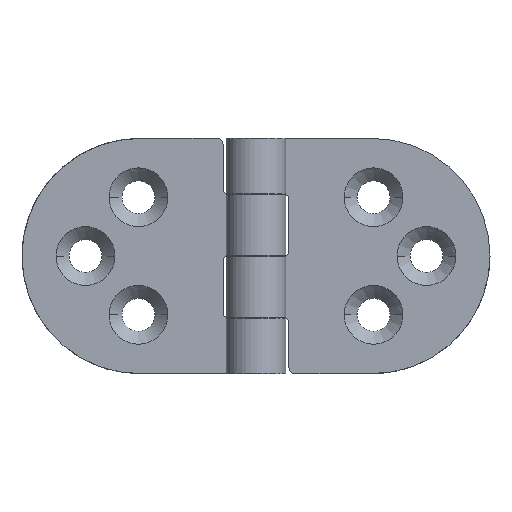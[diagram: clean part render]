
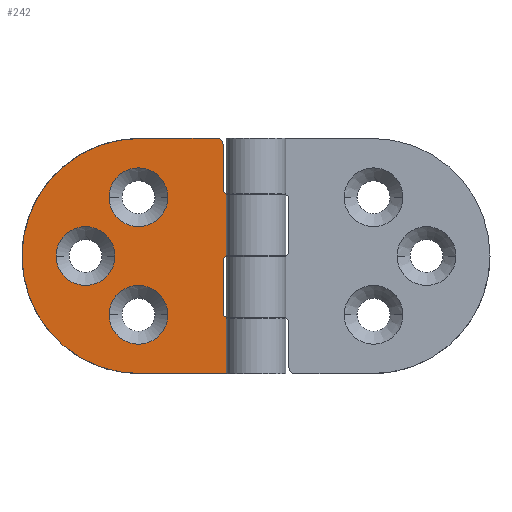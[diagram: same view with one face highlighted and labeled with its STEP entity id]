
A CAD part, top view. The second image highlights one B-rep face of the part: STEP entity #242.
In plain terms, the highlighted planar face has unit normal (0, 0, 1).
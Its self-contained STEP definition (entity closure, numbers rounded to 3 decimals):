
#11=FACE_BOUND('',#383,.T.);
#12=FACE_BOUND('',#384,.T.);
#13=FACE_BOUND('',#385,.T.);
#39=(
BOUNDED_CURVE()
B_SPLINE_CURVE(2,(#3016,#3017,#3018,#3019),.UNSPECIFIED.,.F.,.F.)
B_SPLINE_CURVE_WITH_KNOTS((3,1,3),(94.248,94.469,125.664),
 .UNSPECIFIED.)
CURVE()
GEOMETRIC_REPRESENTATION_ITEM()
RATIONAL_B_SPLINE_CURVE((1.,0.998,0.709,1.))
REPRESENTATION_ITEM('')
);
#82=PLANE('',#1997);
#242=ADVANCED_FACE('',(#312,#11,#12,#13),#82,.T.);
#312=FACE_OUTER_BOUND('',#382,.T.);
#382=EDGE_LOOP('',(#556,#557,#558,#559,#560,#561,#562,#563,#564,#565,#566,
#567,#568,#569,#570));
#383=EDGE_LOOP('',(#571));
#384=EDGE_LOOP('',(#572));
#385=EDGE_LOOP('',(#573));
#556=ORIENTED_EDGE('',*,*,#890,.T.);
#557=ORIENTED_EDGE('',*,*,#891,.T.);
#558=ORIENTED_EDGE('',*,*,#892,.T.);
#559=ORIENTED_EDGE('',*,*,#893,.T.);
#560=ORIENTED_EDGE('',*,*,#894,.T.);
#561=ORIENTED_EDGE('',*,*,#895,.T.);
#562=ORIENTED_EDGE('',*,*,#896,.T.);
#563=ORIENTED_EDGE('',*,*,#897,.T.);
#564=ORIENTED_EDGE('',*,*,#898,.T.);
#565=ORIENTED_EDGE('',*,*,#899,.T.);
#566=ORIENTED_EDGE('',*,*,#900,.T.);
#567=ORIENTED_EDGE('',*,*,#901,.T.);
#568=ORIENTED_EDGE('',*,*,#902,.T.);
#569=ORIENTED_EDGE('',*,*,#903,.T.);
#570=ORIENTED_EDGE('',*,*,#904,.T.);
#571=ORIENTED_EDGE('',*,*,#905,.T.);
#572=ORIENTED_EDGE('',*,*,#906,.T.);
#573=ORIENTED_EDGE('',*,*,#907,.T.);
#890=EDGE_CURVE('',#1608,#1609,#1144,.T.);
#891=EDGE_CURVE('',#1609,#1610,#39,.T.);
#892=EDGE_CURVE('',#1610,#1611,#1292,.T.);
#893=EDGE_CURVE('',#1611,#1612,#1145,.T.);
#894=EDGE_CURVE('',#1612,#1613,#1146,.T.);
#895=EDGE_CURVE('',#1613,#1614,#1147,.T.);
#896=EDGE_CURVE('',#1614,#1615,#1293,.T.);
#897=EDGE_CURVE('',#1615,#1616,#1148,.T.);
#898=EDGE_CURVE('',#1616,#1617,#1294,.T.);
#899=EDGE_CURVE('',#1617,#1618,#1149,.T.);
#900=EDGE_CURVE('',#1618,#1619,#1150,.T.);
#901=EDGE_CURVE('',#1619,#1620,#1151,.T.);
#902=EDGE_CURVE('',#1620,#1621,#1295,.T.);
#903=EDGE_CURVE('',#1621,#1622,#1152,.T.);
#904=EDGE_CURVE('',#1622,#1608,#1296,.T.);
#905=EDGE_CURVE('',#1623,#1623,#1425,.T.);
#906=EDGE_CURVE('',#1624,#1624,#1426,.T.);
#907=EDGE_CURVE('',#1625,#1625,#1427,.T.);
#1144=B_SPLINE_CURVE_WITH_KNOTS('',1,(#3014,#3015),.UNSPECIFIED.,.F.,.F.,
(2,2),(-102.026,-88.826),.UNSPECIFIED.);
#1145=B_SPLINE_CURVE_WITH_KNOTS('',1,(#3023,#3024),.UNSPECIFIED.,.F.,.F.,
(2,2),(88.826,108.626),.UNSPECIFIED.);
#1146=B_SPLINE_CURVE_WITH_KNOTS('',1,(#3025,#3026),.UNSPECIFIED.,.F.,.F.,
(2,2),(0.,9.4),.UNSPECIFIED.);
#1147=B_SPLINE_CURVE_WITH_KNOTS('',1,(#3027,#3028),.UNSPECIFIED.,.F.,.F.,
(2,2),(-108.626,-104.026),.UNSPECIFIED.);
#1148=B_SPLINE_CURVE_WITH_KNOTS('',1,(#3032,#3033),.UNSPECIFIED.,.F.,.F.,
(2,2),(-9.7,-1.),.UNSPECIFIED.);
#1149=B_SPLINE_CURVE_WITH_KNOTS('',1,(#3037,#3038),.UNSPECIFIED.,.F.,.F.,
(2,2),(1.,5.6),.UNSPECIFIED.);
#1150=B_SPLINE_CURVE_WITH_KNOTS('',1,(#3039,#3040),.UNSPECIFIED.,.F.,.F.,
(2,2),(20.1,30.4),.UNSPECIFIED.);
#1151=B_SPLINE_CURVE_WITH_KNOTS('',1,(#3041,#3042),.UNSPECIFIED.,.F.,.F.,
(2,2),(26.1,30.7),.UNSPECIFIED.);
#1152=B_SPLINE_CURVE_WITH_KNOTS('',1,(#3046,#3047),.UNSPECIFIED.,.F.,.F.,
(2,2),(32.7,40.3),.UNSPECIFIED.);
#1292=TRIMMED_CURVE($,#1420,(#3021),(#3022),.T.,.CARTESIAN.);
#1293=TRIMMED_CURVE($,#1421,(#3030),(#3031),.T.,.CARTESIAN.);
#1294=TRIMMED_CURVE($,#1422,(#3035),(#3036),.T.,.CARTESIAN.);
#1295=TRIMMED_CURVE($,#1423,(#3044),(#3045),.T.,.CARTESIAN.);
#1296=TRIMMED_CURVE($,#1424,(#3049),(#3050),.T.,.CARTESIAN.);
#1420=CIRCLE('',#1998,20.);
#1421=CIRCLE('',#1999,1.);
#1422=CIRCLE('',#2000,1.);
#1423=CIRCLE('',#2001,1.);
#1424=CIRCLE('',#2002,1.);
#1425=CIRCLE('',#2003,5.);
#1426=CIRCLE('',#2004,5.);
#1427=CIRCLE('',#2005,5.);
#1608=VERTEX_POINT('',#2996);
#1609=VERTEX_POINT('',#2997);
#1610=VERTEX_POINT('',#2998);
#1611=VERTEX_POINT('',#2999);
#1612=VERTEX_POINT('',#3000);
#1613=VERTEX_POINT('',#3001);
#1614=VERTEX_POINT('',#3002);
#1615=VERTEX_POINT('',#3003);
#1616=VERTEX_POINT('',#3004);
#1617=VERTEX_POINT('',#3005);
#1618=VERTEX_POINT('',#3006);
#1619=VERTEX_POINT('',#3007);
#1620=VERTEX_POINT('',#3008);
#1621=VERTEX_POINT('',#3009);
#1622=VERTEX_POINT('',#3010);
#1623=VERTEX_POINT('',#3011);
#1624=VERTEX_POINT('',#3012);
#1625=VERTEX_POINT('',#3013);
#1997=AXIS2_PLACEMENT_3D('',#2995,#2248,$);
#1998=AXIS2_PLACEMENT_3D($,#3020,#2249,#2250);
#1999=AXIS2_PLACEMENT_3D($,#3029,#2251,#2252);
#2000=AXIS2_PLACEMENT_3D($,#3034,#2253,#2254);
#2001=AXIS2_PLACEMENT_3D($,#3043,#2255,#2256);
#2002=AXIS2_PLACEMENT_3D($,#3048,#2257,#2258);
#2003=AXIS2_PLACEMENT_3D($,#3051,#2259,#2260);
#2004=AXIS2_PLACEMENT_3D($,#3052,#2261,#2262);
#2005=AXIS2_PLACEMENT_3D($,#3053,#2263,#2264);
#2248=DIRECTION('',(0.,0.,1.));
#2249=DIRECTION('',(0.,0.,1.));
#2250=DIRECTION('',(-1.,0.,0.));
#2251=DIRECTION('',(0.,0.,-1.));
#2252=DIRECTION('',(0.,-1.,0.));
#2253=DIRECTION('',(0.,0.,-1.));
#2254=DIRECTION('',(-1.,0.,0.));
#2255=DIRECTION('',(0.,0.,-1.));
#2256=DIRECTION('',(0.,-1.,0.));
#2257=DIRECTION('',(0.,0.,1.));
#2258=DIRECTION('',(1.,0.,0.));
#2259=DIRECTION('',(0.,0.,-1.));
#2260=DIRECTION('',(1.,0.,0.));
#2261=DIRECTION('',(0.,0.,-1.));
#2262=DIRECTION('',(1.,0.,0.));
#2263=DIRECTION('',(0.,0.,-1.));
#2264=DIRECTION('',(1.,0.,0.));
#2995=CARTESIAN_POINT('',(-39.033,-90.871,7.684));
#2996=CARTESIAN_POINT('',(-5.833,-50.871,7.684));
#2997=CARTESIAN_POINT('',(-19.033,-50.871,7.684));
#2998=CARTESIAN_POINT('',(-39.033,-70.871,7.684));
#2999=CARTESIAN_POINT('',(-19.033,-90.871,7.684));
#3000=CARTESIAN_POINT('',(0.767,-90.871,7.684));
#3001=CARTESIAN_POINT('',(0.767,-81.471,7.684));
#3002=CARTESIAN_POINT('',(-3.833,-81.471,7.684));
#3003=CARTESIAN_POINT('',(-4.833,-80.471,7.684));
#3004=CARTESIAN_POINT('',(-4.833,-71.771,7.684));
#3005=CARTESIAN_POINT('',(-3.833,-70.771,7.684));
#3006=CARTESIAN_POINT('',(0.767,-70.771,7.684));
#3007=CARTESIAN_POINT('',(0.767,-60.471,7.684));
#3008=CARTESIAN_POINT('',(-3.833,-60.471,7.684));
#3009=CARTESIAN_POINT('',(-4.833,-59.471,7.684));
#3010=CARTESIAN_POINT('',(-4.833,-51.871,7.684));
#3011=CARTESIAN_POINT('',(-14.233,-60.871,7.684));
#3012=CARTESIAN_POINT('',(-23.233,-70.871,7.684));
#3013=CARTESIAN_POINT('',(-14.233,-80.871,7.684));
#3014=CARTESIAN_POINT('',(-5.833,-50.871,7.684));
#3015=CARTESIAN_POINT('',(-19.033,-50.871,7.684));
#3016=CARTESIAN_POINT('',(-19.033,-50.871,7.684));
#3017=CARTESIAN_POINT('',(-19.133,-50.871,7.684));
#3018=CARTESIAN_POINT('',(-39.033,-51.07,7.684));
#3019=CARTESIAN_POINT('',(-39.033,-70.871,7.684));
#3020=CARTESIAN_POINT('',(-19.033,-70.871,7.684));
#3021=CARTESIAN_POINT('',(-39.033,-70.871,7.684));
#3022=CARTESIAN_POINT('',(-19.033,-90.871,7.684));
#3023=CARTESIAN_POINT('',(-19.033,-90.871,7.684));
#3024=CARTESIAN_POINT('',(0.767,-90.871,7.684));
#3025=CARTESIAN_POINT('',(0.767,-90.871,7.684));
#3026=CARTESIAN_POINT('',(0.767,-81.471,7.684));
#3027=CARTESIAN_POINT('',(0.767,-81.471,7.684));
#3028=CARTESIAN_POINT('',(-3.833,-81.471,7.684));
#3029=CARTESIAN_POINT('',(-3.833,-80.471,7.684));
#3030=CARTESIAN_POINT('',(-3.833,-81.471,7.684));
#3031=CARTESIAN_POINT('',(-4.833,-80.471,7.684));
#3032=CARTESIAN_POINT('',(-4.833,-80.471,7.684));
#3033=CARTESIAN_POINT('',(-4.833,-71.771,7.684));
#3034=CARTESIAN_POINT('',(-3.833,-71.771,7.684));
#3035=CARTESIAN_POINT('',(-4.833,-71.771,7.684));
#3036=CARTESIAN_POINT('',(-3.833,-70.771,7.684));
#3037=CARTESIAN_POINT('',(-3.833,-70.771,7.684));
#3038=CARTESIAN_POINT('',(0.767,-70.771,7.684));
#3039=CARTESIAN_POINT('',(0.767,-70.771,7.684));
#3040=CARTESIAN_POINT('',(0.767,-60.471,7.684));
#3041=CARTESIAN_POINT('',(0.767,-60.471,7.684));
#3042=CARTESIAN_POINT('',(-3.833,-60.471,7.684));
#3043=CARTESIAN_POINT('',(-3.833,-59.471,7.684));
#3044=CARTESIAN_POINT('',(-3.833,-60.471,7.684));
#3045=CARTESIAN_POINT('',(-4.833,-59.471,7.684));
#3046=CARTESIAN_POINT('',(-4.833,-59.471,7.684));
#3047=CARTESIAN_POINT('',(-4.833,-51.871,7.684));
#3048=CARTESIAN_POINT('',(-5.833,-51.871,7.684));
#3049=CARTESIAN_POINT('',(-4.833,-51.871,7.684));
#3050=CARTESIAN_POINT('',(-5.833,-50.871,7.684));
#3051=CARTESIAN_POINT('',(-19.233,-60.871,7.684));
#3052=CARTESIAN_POINT('',(-28.233,-70.871,7.684));
#3053=CARTESIAN_POINT('',(-19.233,-80.871,7.684));
